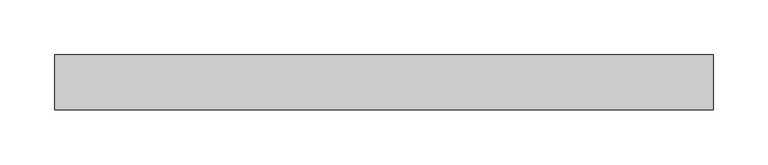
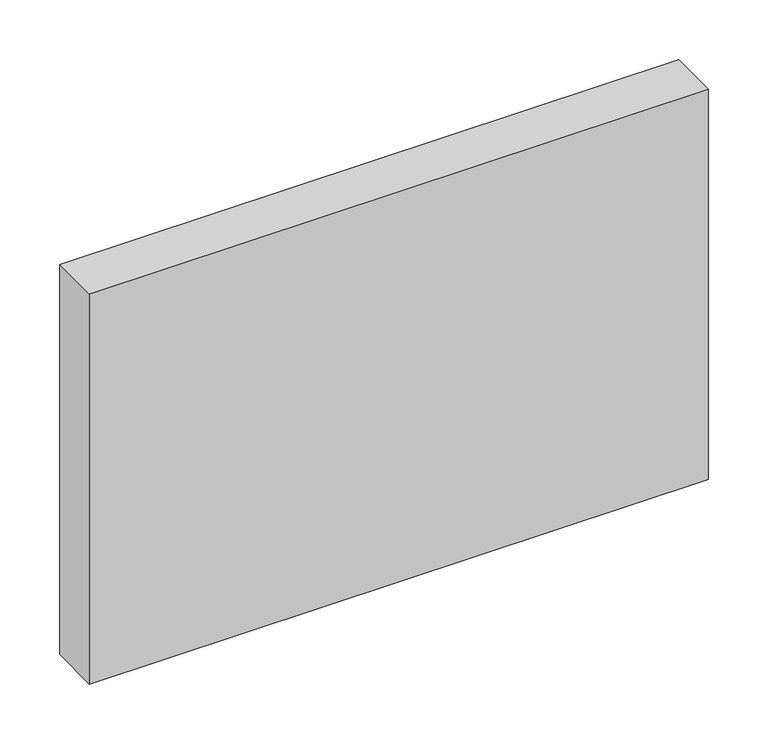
"""IFC4 building model written with IfcOpenShell, lengths in millimetres: proxy geometry, Módulo de Vedação de Concreto Celular - Celucon : MVCC 05x40x60cm (L x A x C)."""

from ifc_helpers import new_model, si_unit, origin, origin_with_axes, place, context, project, spatial, polyline, outline, extrude, source, transform, mapped, element, save


def generic_models_ac451876(model_context):
    return source(origin(), model_context, "Body", "SweptSolid", [
        extrude(outline(polyline([(300.0, 25.0), (300.0, -25.0), (-300.0, -25.0), (-300.0, 25.0), (300.0, 25.0)])), origin_with_axes(), (0.0, 0.0, 1.0), 400.0),
    ])


if __name__ == "__main__":
    model = new_model("IFC4")
    model_context = context("Model", 3, world=origin())
    ifc_project = project(units=[si_unit("LENGTHUNIT", "METRE", prefix="MILLI")], contexts=[model_context])
    site = spatial("IfcSite", under=ifc_project)
    building = spatial("IfcBuilding", under=site)
    placement = place(None, origin())
    generic_models_shape = generic_models_ac451876(model_context)
    element("IfcBuildingElementProxy", 1, Name="Módulo de Vedação de Concreto Celular - Celucon : MVCC 05x40x60cm (L x A x C)", ObjectType="Módulo de Vedação de Concreto Celular - Celucon : MVCC 05x40x60cm (L x A x C)", at=placement, inside=building, context=model_context, shape_type="MappedRepresentation", body=[
        mapped(generic_models_shape, transform((0.0, 0.0, 0.0), x_axis=(1.0, 0.0, 0.0), y_axis=(0.0, 1.0, 0.0), z_axis=(0.0, 0.0, 1.0))),
    ])
    save(model, "model.ifc")
